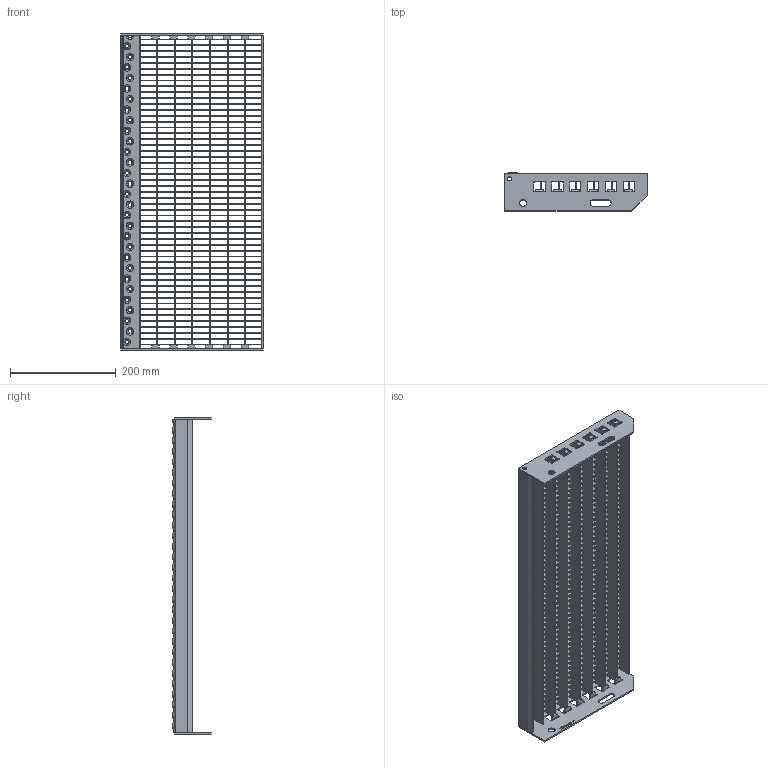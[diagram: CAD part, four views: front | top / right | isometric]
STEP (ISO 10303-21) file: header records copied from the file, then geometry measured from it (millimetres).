
FILE_DESCRIPTION(/* description */ ('','CAx-IF Rec.Pracs.---Representation and Presentation of Product Manufacturing Information (PMI)---3.8---2014-02-18'),/* implementation_level */ '2;1');
FILE_NAME(/* name */ 'C:\Users\phaverkotte\Desktop\Lager STEP\P-Stufen\PX42 230-33 11-2\PX42 230-33 11-2 600mm x 270mm.stp',/* time_stamp */ '2018-03-24T10:54:00+01:00',/* author */ ('phaverkotte'),/* organization */ (''),/* preprocessor_version */ 'ST-DEVELOPER v16.13',/* originating_system */ 'Autodesk Inventor 2018',/* authorisation */ '');
FILE_SCHEMA (('AP242_MANAGED_MODEL_BASED_3D_ENGINEERING_MIM_LF { 1 0 10303 442 1 1 4 }'));
Length unit declared in the file: millimetre
Products named in the file (8): Schodišťový stupeň přím
ý lisovaný; Seitenplatte ausgeklinkt links; Seitenplatte 240 ausgeklinkt extern rechts; Schod nášlap; P Rošt schodu; Querstab; P Nosný pás; Hinteres Flach
Assembly tree (65 placements, depth 3):
  Schodišťový stupeň přím
ý lisovaný
    Seitenplatte ausgeklinkt links
    Seitenplatte 240 ausgeklinkt extern rechts
    Schod nášlap
    P Rošt schodu
      Querstab  x53
      P Nosný pás  x7
      Hinteres Flach
Bounding box: 270.31 x 72.75 x 600 mm (x, y, z)
Volume: 646871 mm3; surface area: 720198.9 mm2
Topology: 64 solids, 64 shells, 11234 faces, 33167 edges, 22078 vertices
Faces by surface type: plane 10958, cylinder 132, cone 90, torus 30, bspline 24
Full cylindrical faces by diameter (mm): 8 x2, 13 x2
Entity records: 35303 total; most frequent: CARTESIAN_POINT 9626, ORIENTED_EDGE 5160, DIRECTION 5004, EDGE_CURVE 2580, LINE 2110, VECTOR 2110, VERTEX_POINT 1747, AXIS2_PLACEMENT_3D 1447
